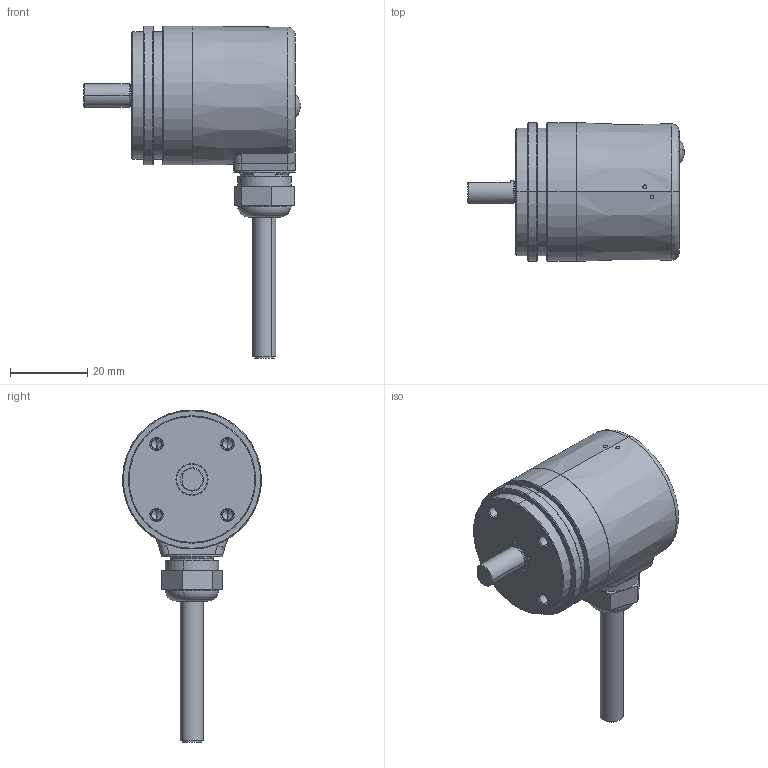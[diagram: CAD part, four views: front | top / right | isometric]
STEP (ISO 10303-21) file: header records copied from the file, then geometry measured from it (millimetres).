
FILE_DESCRIPTION (( 'STEP AP214' ), '1' );
FILE_NAME ('3651.23X2.XXXX.STEP', '2008-09-17T04:49:46', ( 'admin' ), ( 'Fritz Kübler GmbH' ), 'SwSTEP 2.0', 'SolidWorks 2008', '' );
FILE_SCHEMA (( 'AUTOMOTIVE_DESIGN' ));
Length unit declared in the file: millimetre
Products named in the file (1): 3651.23X2.XXXX
Bounding box: 56.09 x 36 x 86 mm (x, y, z)
Volume: 23281.4 mm3; surface area: 21731.7 mm2
Topology: 8 solids, 8 shells, 496 faces, 1101 edges, 656 vertices
Faces by surface type: cylinder 175, cone 129, plane 113, torus 66, bspline 7, sphere 6
Entity records: 19770 total; most frequent: CARTESIAN_POINT 3069, DIRECTION 2576, ORIENTED_EDGE 2158, AXIS2_PLACEMENT_3D 1098, EDGE_CURVE 1079, VERTEX_POINT 656, CIRCLE 608, EDGE_LOOP 563
